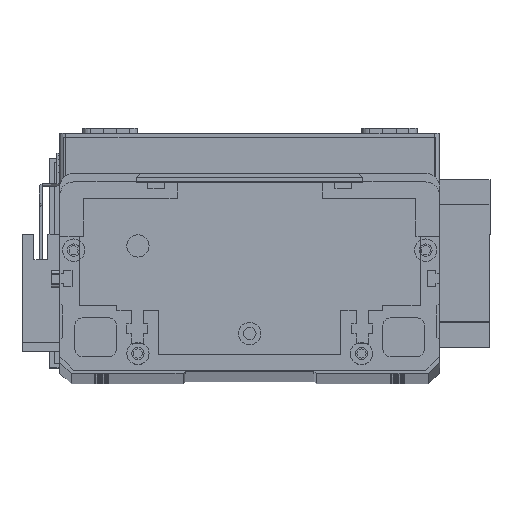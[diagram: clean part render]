
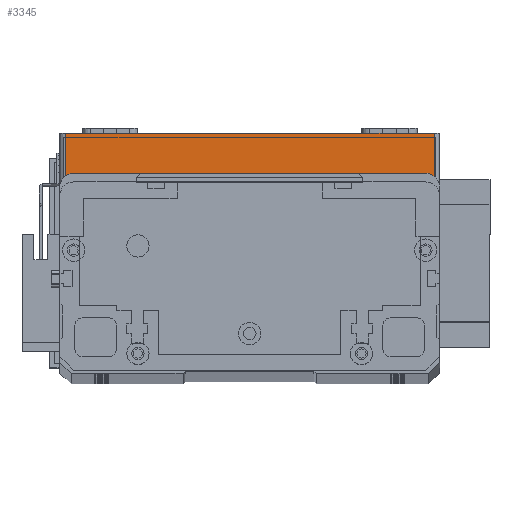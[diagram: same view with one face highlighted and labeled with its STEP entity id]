
A CAD part, top view. The second image highlights one B-rep face of the part: STEP entity #3345.
In plain terms, the highlighted planar face has unit normal (0, 0, 1) as drawn and (0, -1, 0) by its records, which use the part's own axes.
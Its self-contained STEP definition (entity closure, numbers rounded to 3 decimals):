
#331 = AXIS2_PLACEMENT_3D ( 'NONE', #19490, #28814, #14886 ) ;
#697 = ORIENTED_EDGE ( 'NONE', *, *, #5138, .T. ) ;
#950 = EDGE_LOOP ( 'NONE', ( #24842, #7915, #697, #3164 ) ) ;
#2882 = LINE ( 'NONE', #4807, #8355 ) ;
#3164 = ORIENTED_EDGE ( 'NONE', *, *, #6358, .T. ) ;
#3345 = ADVANCED_FACE ( 'NONE', ( #9612 ), #12559, .F. ) ;
#3994 = CARTESIAN_POINT ( 'NONE',  ( 0., 0., 0. ) ) ;
#4171 = CARTESIAN_POINT ( 'NONE',  ( 2., 0., 19.5 ) ) ;
#4807 = CARTESIAN_POINT ( 'NONE',  ( 2., 0., 19.5 ) ) ;
#5138 = EDGE_CURVE ( 'NONE', #10719, #9084, #24066, .T. ) ;
#5234 = CARTESIAN_POINT ( 'NONE',  ( 134., 0., 19.5 ) ) ;
#5749 = VECTOR ( 'NONE', #10924, 1000. ) ;
#5992 = EDGE_CURVE ( 'NONE', #11692, #10719, #2882, .T. ) ;
#6190 = VECTOR ( 'NONE', #15538, 1000. ) ;
#6358 = EDGE_CURVE ( 'NONE', #9084, #17408, #23617, .T. ) ;
#7499 = CARTESIAN_POINT ( 'NONE',  ( 0., 0., 19.5 ) ) ;
#7915 = ORIENTED_EDGE ( 'NONE', *, *, #5992, .T. ) ;
#8355 = VECTOR ( 'NONE', #23459, 1000. ) ;
#9084 = VERTEX_POINT ( 'NONE', #24955 ) ;
#9612 = FACE_OUTER_BOUND ( 'NONE', #950, .T. ) ;
#10719 = VERTEX_POINT ( 'NONE', #11917 ) ;
#10924 = DIRECTION ( 'NONE',  ( 0., 0., 1. ) ) ;
#11692 = VERTEX_POINT ( 'NONE', #4171 ) ;
#11917 = CARTESIAN_POINT ( 'NONE',  ( 2., 0., 0. ) ) ;
#12559 = PLANE ( 'NONE',  #331 ) ;
#14886 = DIRECTION ( 'NONE',  ( 0., 0., 1. ) ) ;
#15538 = DIRECTION ( 'NONE',  ( 1., 0., 0. ) ) ;
#16625 = VECTOR ( 'NONE', #19255, 1000. ) ;
#17408 = VERTEX_POINT ( 'NONE', #5234 ) ;
#19255 = DIRECTION ( 'NONE',  ( 1., 0., 0. ) ) ;
#19490 = CARTESIAN_POINT ( 'NONE',  ( 0., 0., 19.5 ) ) ;
#23459 = DIRECTION ( 'NONE',  ( 0., 0., -1. ) ) ;
#23617 = LINE ( 'NONE', #27204, #5749 ) ;
#24066 = LINE ( 'NONE', #3994, #6190 ) ;
#24120 = EDGE_CURVE ( 'NONE', #11692, #17408, #28980, .T. ) ;
#24842 = ORIENTED_EDGE ( 'NONE', *, *, #24120, .F. ) ;
#24955 = CARTESIAN_POINT ( 'NONE',  ( 134., 0., 0. ) ) ;
#27204 = CARTESIAN_POINT ( 'NONE',  ( 134., 0., 19.5 ) ) ;
#28814 = DIRECTION ( 'NONE',  ( 0., 1., 0. ) ) ;
#28980 = LINE ( 'NONE', #7499, #16625 ) ;
